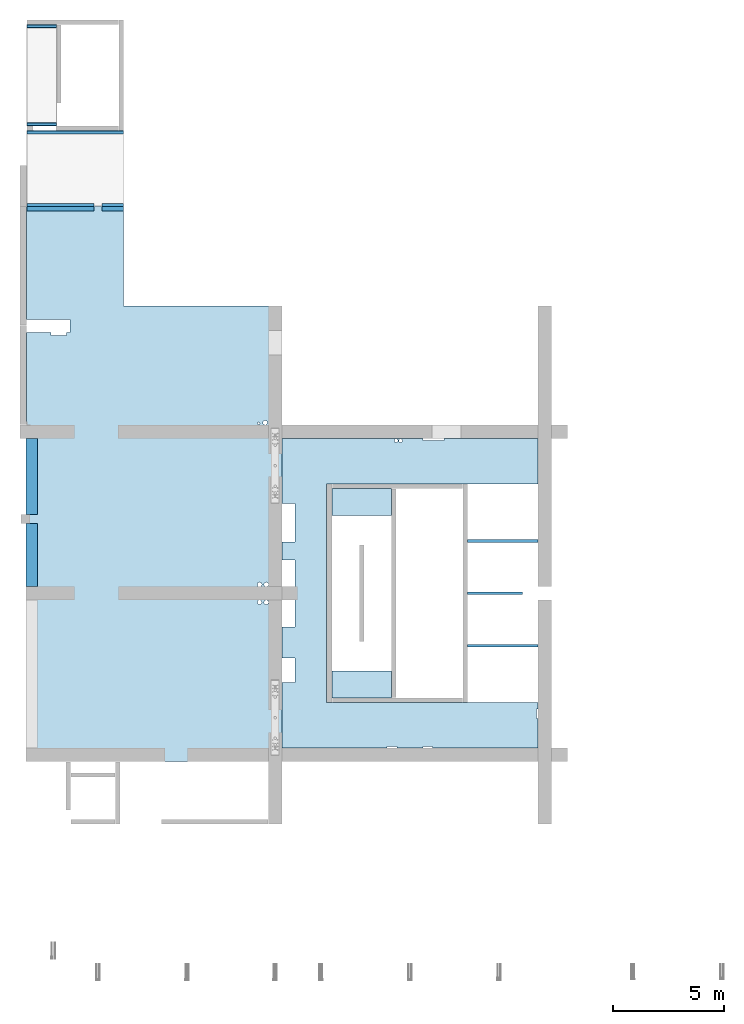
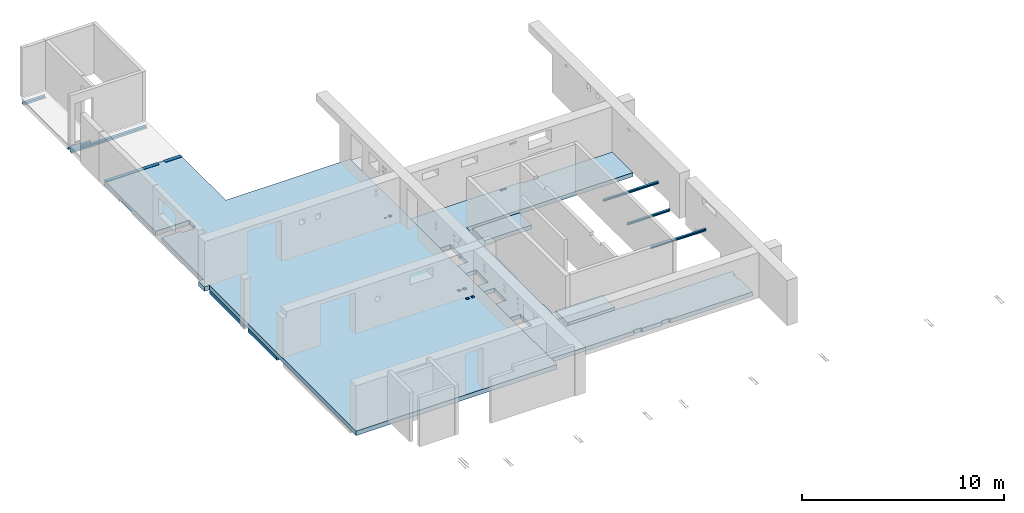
# One storey, part 3 of 8: 9 beams, 4 slabs, 42 openings.
"""IFC2X3 building model written with IfcOpenShell, lengths in millimetres."""

from ifc_helpers import new_model, entity, si_unit, converted_unit, derived_unit, direction, frame, frame_2d, origin, origin_2d_with_axis, place, context, subcontext, project, spatial, polyline, circle_curve, parameter, trimmed, segment, composite_curve, rectangle, circle, i_section, outline, extrude, source, transform, mapped, material, layer, layer_set, layer_usage, type_object, type_shapes, element, save


model = new_model("IFC2X3")

# Units and contexts
model_context = context("Model", 3, precision=0.01, world=origin(), true_north=direction((6.12303176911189e-17, 1.0)))
body_context = subcontext(model_context, "Body", "Model", "MODEL_VIEW")
ifc_project = project(units=[si_unit("LENGTHUNIT", "METRE", prefix="MILLI"), si_unit("AREAUNIT", "SQUARE_METRE"), si_unit("VOLUMEUNIT", "CUBIC_METRE"), converted_unit("PLANEANGLEUNIT", "DEGREE", entity("IfcRatioMeasure", 0.0174532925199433), si_unit("PLANEANGLEUNIT", "RADIAN"), dimensions=[0, 0, 0, 0, 0, 0, 0]), si_unit("MASSUNIT", "GRAM", prefix="KILO"), derived_unit("MASSDENSITYUNIT", [(si_unit("MASSUNIT", "GRAM", prefix="KILO"), 1), (si_unit("LENGTHUNIT", "METRE"), -3)]), si_unit("TIMEUNIT", "SECOND"), si_unit("FREQUENCYUNIT", "HERTZ"), si_unit("THERMODYNAMICTEMPERATUREUNIT", "DEGREE_CELSIUS"), derived_unit("THERMALTRANSMITTANCEUNIT", [(si_unit("MASSUNIT", "GRAM", prefix="KILO"), 1), (si_unit("THERMODYNAMICTEMPERATUREUNIT", "KELVIN"), -1), (si_unit("TIMEUNIT", "SECOND"), -3)]), derived_unit("VOLUMETRICFLOWRATEUNIT", [(si_unit("LENGTHUNIT", "METRE"), 3), (si_unit("TIMEUNIT", "SECOND"), -1)]), si_unit("ELECTRICCURRENTUNIT", "AMPERE"), si_unit("ELECTRICVOLTAGEUNIT", "VOLT"), si_unit("POWERUNIT", "WATT"), si_unit("FORCEUNIT", "NEWTON", prefix="KILO"), si_unit("ILLUMINANCEUNIT", "LUX"), si_unit("LUMINOUSFLUXUNIT", "LUMEN"), si_unit("LUMINOUSINTENSITYUNIT", "CANDELA"), derived_unit("USERDEFINED", [(si_unit("MASSUNIT", "GRAM", prefix="KILO"), -1), (si_unit("LENGTHUNIT", "METRE"), -2), (si_unit("TIMEUNIT", "SECOND"), 3), (si_unit("LUMINOUSFLUXUNIT", "LUMEN"), 1)]), derived_unit("LINEARVELOCITYUNIT", [(si_unit("LENGTHUNIT", "METRE"), 1), (si_unit("TIMEUNIT", "SECOND"), -1)]), si_unit("PRESSUREUNIT", "PASCAL"), derived_unit("USERDEFINED", [(si_unit("LENGTHUNIT", "METRE"), -2), (si_unit("MASSUNIT", "GRAM", prefix="KILO"), 1), (si_unit("TIMEUNIT", "SECOND"), -2)])], contexts=[model_context])

# Site, building, storey
site_placement = place(None, origin())
site = spatial("IfcSite", under=ifc_project, at=site_placement, Name="Default", CompositionType="ELEMENT")
building_placement = place(site_placement, origin())
building = spatial("IfcBuilding", under=site, at=building_placement, Name="niet gebruiken", CompositionType="ELEMENT")
storey_placement = place(building_placement, frame((0.0, 0.0, 3000.0)))
storey = spatial("IfcBuildingStorey", under=building, at=storey_placement, Name="00a eerste tussenverdieping", CompositionType="ELEMENT", Elevation=3000.00000000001)

# Beams
ifc_material_1 = material(Name="NLRS_f2_beton ihwg")
beam_type_1 = type_object("IfcBeamType", Name="500x500", PredefinedType="BEAM", material=ifc_material_1)
shared_shape = source(origin(), body_context, "Body", "SweptSolid", [
    extrude(rectangle(XDim=3404.00000000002, YDim=500.000000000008, at=frame_2d((2.1600499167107e-12, -8.66862137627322e-12), x_axis=(1.0, 0.0))), frame((124780.0, 22748.0, 2410.0), z_axis=(0.0, 0.0, 1.0), x_axis=(0.0, -1.0, 0.0)), (0.0, 0.0, 1.0), 230.0),
    extrude(rectangle(XDim=2845.99999999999, YDim=499.99999999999, at=frame_2d((-2.1600499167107e-12, -8.66862137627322e-12), x_axis=(1.0, 0.0))), frame((124780.0, 19223.0, 2410.0), z_axis=(0.0, 0.0, 1.0), x_axis=(0.0, -1.0, 0.0)), (0.0, 0.0, 1.0), 230.0),
])
type_shapes(beam_type_1, [shared_shape])
beam_1_placement = place(storey_placement, frame((0.0, 0.0, -3000.0)))
element("IfcBeam", 1, at=beam_1_placement, inside=storey, type_object=beam_type_1, material=ifc_material_1, Name="NLRS_28.11_SF_WPB_betonbalk ihwg recht_gen:500x500", ObjectType="500x500", context=body_context, shape_type="MappedRepresentation", body=[
    mapped(shared_shape, transform((0.0, 0.0, 0.0), scale=1.0)),
])
ifc_material_2 = material(Name="NLRS_h2_staal")
beam_type_2 = type_object("IfcBeamType", Name="NLRS_28.11_SF_WPB_stalen ligger HEA_gen:ligger HEA 120", PredefinedType="BEAM")
beam_2_placement = place(storey_placement, frame((144340.0, 17500.0, 950.0)))
element("IfcBeam", 2, at=beam_2_placement, inside=storey, type_object=beam_type_2, material=ifc_material_2, Name="NLRS_28.11_SF_WPB_stalen ligger HEA_gen:ligger HEA 120", ObjectType="NLRS_28.11_SF_WPB_stalen ligger HEA_gen:ligger HEA 120", context=body_context, shape_type="SweptSolid", body=[
    extrude(i_section(OverallWidth=120.00000000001, OverallDepth=114.000000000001, WebThickness=4.99999999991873, FlangeThickness=8.00000000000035, FilletRadius=11.9999999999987, at=frame_2d((2.70006239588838e-13, -2.16360263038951e-12), x_axis=(0.0, 1.0))), frame((0.0, 0.0, -57.0), z_axis=(1.0, 0.0, 0.0), x_axis=(0.0, 0.0, -1.0)), (0.0, 0.0, 1.0), 2450.0),
])
beam_3_placement = place(storey_placement, frame((144340.0, 19850.0, 950.0)))
element("IfcBeam", 3, at=beam_3_placement, inside=storey, type_object=beam_type_2, material=ifc_material_2, Name="NLRS_28.11_SF_WPB_stalen ligger HEA_gen:ligger HEA 120", ObjectType="NLRS_28.11_SF_WPB_stalen ligger HEA_gen:ligger HEA 120", context=body_context, shape_type="SweptSolid", body=[
    extrude(i_section(OverallWidth=120.000000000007, OverallDepth=114.000000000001, WebThickness=4.99999999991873, FlangeThickness=8.00000000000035, FilletRadius=12.000000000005, at=frame_2d((2.70006239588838e-13, 0.0), x_axis=(0.0, 1.0))), frame((0.0, 0.0, -57.0), z_axis=(1.0, 0.0, 0.0), x_axis=(0.0, 0.0, -1.0)), (0.0, 0.0, 1.0), 3150.0),
])
beam_4_placement = place(storey_placement, frame((144340.0, 15150.0, 950.0)))
element("IfcBeam", 4, at=beam_4_placement, inside=storey, type_object=beam_type_2, material=ifc_material_2, Name="NLRS_28.11_SF_WPB_stalen ligger HEA_gen:ligger HEA 120", ObjectType="NLRS_28.11_SF_WPB_stalen ligger HEA_gen:ligger HEA 120", context=body_context, shape_type="SweptSolid", body=[
    extrude(i_section(OverallWidth=120.000000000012, OverallDepth=114.000000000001, WebThickness=4.9999999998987, FlangeThickness=8.00000000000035, FilletRadius=11.9999999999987, at=frame_2d((2.70006239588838e-13, 4.33075797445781e-12), x_axis=(0.0, 1.0))), frame((0.0, 0.0, -57.0), z_axis=(1.0, 0.0, 0.0), x_axis=(0.0, 0.0, -1.0)), (0.0, 0.0, 1.0), 3150.00000000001),
])
beam_type_3 = type_object("IfcBeamType", Name="NLRS_28.11_SF_WPB_stalen ligger hoekprofiel gelijkzijdig_gen:ligger gelijzijdig hoekprofiel LEQU_150x150x15", PredefinedType="BEAM")
beam_5_placement = place(storey_placement, frame((128900.0, 38227.5000000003, -360.0), z_axis=(0.0, 0.0, 1.0), x_axis=(-1.0, 0.0, 0.0)))
element("IfcBeam", 5, at=beam_5_placement, inside=storey, type_object=beam_type_3, material=ifc_material_2, Name="NLRS_28.11_SF_WPB_stalen ligger hoekprofiel gelijkzijdig_gen:ligger gelijzijdig hoekprofiel LEQU_150x150x15", ObjectType="NLRS_28.11_SF_WPB_stalen ligger hoekprofiel gelijkzijdig_gen:ligger gelijzijdig hoekprofiel LEQU_150x150x15", context=body_context, shape_type="SweptSolid", body=[
    extrude(outline(composite_curve([segment(polyline([(-93.3333333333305, -56.6666666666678), (56.6666666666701, -56.6666666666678)]), True, "CONTINUOUS"), segment(polyline([(56.6666666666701, -56.6666666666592), (56.6666666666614, 93.3333333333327)]), True, "CONTINUOUS"), segment(polyline([(56.6666666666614, 93.3333333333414), (49.6666666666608, 93.3333333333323)]), True, "CONTINUOUS"), segment(trimmed(circle_curve(frame_2d((49.6666666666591, 85.3333333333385), x_axis=(0.0, 1.0)), 7.99999999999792), [parameter(0.0)], [parameter(90.0000000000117)], True, "PARAMETER"), True, "CONTINUOUS"), segment(polyline([(41.6666666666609, 85.333333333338), (41.6666666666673, -25.6666666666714)]), True, "CONTINUOUS"), segment(trimmed(circle_curve(frame_2d((25.6666666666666, -25.6666666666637), x_axis=(1.0, 0.0)), 16.0000000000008), [parameter(270.000000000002)], [parameter(0.0)], True, "PARAMETER"), False, "CONTINUOUS"), segment(polyline([(25.6666666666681, -41.66666666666), (-85.3333333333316, -41.6666666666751)]), True, "CONTINUOUS"), segment(trimmed(circle_curve(frame_2d((-85.3333333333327, -49.666666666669), x_axis=(0.0, 1.0)), 7.99999999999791), [parameter(0.0)], [parameter(90.0000000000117)], True, "PARAMETER"), True, "CONTINUOUS"), segment(polyline([(-93.3333333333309, -49.6666666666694), (-93.3333333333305, -56.6666666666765)]), True, "CONTINUOUS")], self_intersect=False)), frame((0.0, 14.1666666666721, -18.3333333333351), z_axis=(1.0, 0.0, 0.0), x_axis=(0.0, 0.0, -1.0)), (0.0, 0.0, 1.0), 4330.00000000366),
])
beam_6_placement = place(storey_placement, frame((124570.0, 42987.5, -358.0)))
element("IfcBeam", 6, at=beam_6_placement, inside=storey, type_object=beam_type_3, material=ifc_material_2, Name="NLRS_28.11_SF_WPB_stalen ligger hoekprofiel gelijkzijdig_gen:ligger gelijzijdig hoekprofiel LEQU_150x150x15", ObjectType="NLRS_28.11_SF_WPB_stalen ligger hoekprofiel gelijkzijdig_gen:ligger gelijzijdig hoekprofiel LEQU_150x150x15", context=body_context, shape_type="SweptSolid", body=[
    extrude(outline(composite_curve([segment(polyline([(49.6666666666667, -93.3333333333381), (56.6666666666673, -93.3333333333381)]), True, "CONTINUOUS"), segment(polyline([(56.6666666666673, -93.3333333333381), (56.6666666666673, 56.6666666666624)]), True, "CONTINUOUS"), segment(polyline([(56.6666666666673, 56.6666666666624), (-93.3333333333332, 56.6666666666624)]), True, "CONTINUOUS"), segment(polyline([(-93.3333333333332, 56.6666666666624), (-93.3333333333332, 49.666666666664)]), True, "CONTINUOUS"), segment(trimmed(circle_curve(frame_2d((-85.3333333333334, 49.666666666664), x_axis=(-1.0, 0.0)), 7.99999999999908), [parameter(0.0)], [parameter(90.0000000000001)], True, "PARAMETER"), True, "CONTINUOUS"), segment(polyline([(-85.3333333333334, 41.6666666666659), (25.6666666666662, 41.6666666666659)]), True, "CONTINUOUS"), segment(trimmed(circle_curve(frame_2d((25.66666666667, 25.6666666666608), x_axis=(0.0, 1.0)), 15.9999999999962), [parameter(269.999999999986)], [parameter(0.0)], True, "PARAMETER"), False, "CONTINUOUS"), segment(polyline([(41.6666666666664, 25.6666666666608), (41.6666666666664, -85.3333333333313)]), True, "CONTINUOUS"), segment(trimmed(circle_curve(frame_2d((49.6666666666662, -85.3333333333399), x_axis=(-1.0, 0.0)), 7.99999999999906), [parameter(0.0)], [parameter(90.0000000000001)], True, "PARAMETER"), True, "CONTINUOUS")], self_intersect=False)), frame((0.0, -14.1666666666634, -18.3333333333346), z_axis=(1.0, 0.0, 0.0), x_axis=(0.0, 0.0, -1.0)), (0.0, 0.0, 1.0), 1310.00000000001),
])
beam_7_placement = place(storey_placement, frame((124570.0, 38512.5, -360.0)))
element("IfcBeam", 7, at=beam_7_placement, inside=storey, type_object=beam_type_3, material=ifc_material_2, Name="NLRS_28.11_SF_WPB_stalen ligger hoekprofiel gelijkzijdig_gen:ligger gelijzijdig hoekprofiel LEQU_150x150x15", ObjectType="NLRS_28.11_SF_WPB_stalen ligger hoekprofiel gelijkzijdig_gen:ligger gelijzijdig hoekprofiel LEQU_150x150x15", context=body_context, shape_type="SweptSolid", body=[
    extrude(outline(composite_curve([segment(polyline([(-93.333333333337, -56.6666666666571), (56.6666666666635, -56.6666666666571)]), True, "CONTINUOUS"), segment(polyline([(56.6666666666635, -56.6666666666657), (56.6666666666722, 93.3333333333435)]), True, "CONTINUOUS"), segment(polyline([(56.6666666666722, 93.3333333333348), (49.6666666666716, 93.3333333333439)]), True, "CONTINUOUS"), segment(trimmed(circle_curve(frame_2d((49.666666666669, 85.3333333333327), x_axis=(0.0, 1.0)), 7.99999999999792), [parameter(0.0)], [parameter(90.0000000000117)], True, "PARAMETER"), True, "CONTINUOUS"), segment(polyline([(41.6666666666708, 85.3333333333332), (41.6666666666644, -25.6666666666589)]), True, "CONTINUOUS"), segment(trimmed(circle_curve(frame_2d((25.6666666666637, -25.6666666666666), x_axis=(1.0, 0.0)), 16.0000000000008), [parameter(270.000000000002)], [parameter(0.0)], True, "PARAMETER"), False, "CONTINUOUS"), segment(polyline([(25.6666666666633, -41.666666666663), (-85.3333333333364, -41.6666666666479)]), True, "CONTINUOUS"), segment(trimmed(circle_curve(frame_2d((-85.3333333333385, -49.6666666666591), x_axis=(0.0, 1.0)), 7.99999999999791), [parameter(0.0)], [parameter(90.0000000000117)], True, "PARAMETER"), True, "CONTINUOUS"), segment(polyline([(-93.3333333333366, -49.6666666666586), (-93.333333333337, -56.6666666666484)]), True, "CONTINUOUS")], self_intersect=False)), frame((0.0, 14.1666666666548, -18.3333333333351), z_axis=(1.0, 0.0, 0.0), x_axis=(0.0, 0.0, -1.0)), (0.0, 0.0, 1.0), 1310.00000000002),
])
beam_type_4 = type_object("IfcBeamType", Name="NLRS_28.11_SF_WPB_stalen ligger Z-profiel_gen_BSc:ligger Z-profiel 200/15x355/15x150/15", PredefinedType="BEAM")
beam_8_placement = place(storey_placement, frame((128900.0, 34857.5000000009, -242.500000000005), z_axis=(0.0, 0.0, 1.0), x_axis=(-1.0, 0.0, 0.0)))
element("IfcBeam", 8, at=beam_8_placement, inside=storey, type_object=beam_type_4, material=ifc_material_2, Name="NLRS_28.11_SF_WPB_stalen ligger Z-profiel_gen_BSc:ligger Z-profiel 200/15x355/15x150/15", ObjectType="NLRS_28.11_SF_WPB_stalen ligger Z-profiel_gen_BSc:ligger Z-profiel 200/15x355/15x150/15", context=body_context, shape_type="SweptSolid", body=[
    extrude(outline(polyline([(177.499999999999, -155.0), (192.500000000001, -155.0), (192.500000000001, -5.0), (-177.5, -5.0), (-177.5, 180.0), (-192.5, 180.0), (-192.5, -20.0), (177.5, -20.0), (177.499999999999, -155.0)])), frame((0.0, 12.5000000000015, 0.0), z_axis=(1.0, 0.0, 0.0), x_axis=(0.0, 0.0, -1.0)), (0.0, 0.0, 1.0), 969.999999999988),
])
beam_9_placement = place(storey_placement, frame((127570.0, 34857.5000000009, -242.500000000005), z_axis=(0.0, 0.0, 1.0), x_axis=(-1.0, 0.0, 0.0)))
element("IfcBeam", 9, at=beam_9_placement, inside=storey, type_object=beam_type_4, material=ifc_material_2, Name="NLRS_28.11_SF_WPB_stalen ligger Z-profiel_gen_BSc:ligger Z-profiel 200/15x355/15x150/15", ObjectType="NLRS_28.11_SF_WPB_stalen ligger Z-profiel_gen_BSc:ligger Z-profiel 200/15x355/15x150/15", context=body_context, shape_type="SweptSolid", body=[
    extrude(outline(polyline([(177.500000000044, -155.0), (192.500000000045, -155.0), (192.500000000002, -5.0), (-177.499999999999, -5.0), (-177.500000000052, 180.0), (-192.500000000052, 180.0), (-192.499999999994, -20.0), (177.500000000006, -20.0), (177.500000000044, -155.0)])), frame((0.0, 12.5000000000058, 0.0), z_axis=(1.0, 0.0, 0.0), x_axis=(0.0, 0.0, -1.0)), (0.0, 0.0, 1.0), 3000.00000000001),
])

# Slab, openings
ifc_layer_1 = layer(ifc_material_1, 270.0)
ifc_layer_set_1 = layer_set([ifc_layer_1], Name="Floor:NLRS_23.21_FL_beton ihwg d=270_gen")
ifc_layer_usage_1 = layer_usage(ifc_layer_set_1, "AXIS3", "POSITIVE", 0.0)
slab_1_placement = place(storey_placement, frame((124250.0, 9950.0, -360.0)))
slab_1 = element("IfcSlab", 10, at=slab_1_placement, inside=storey, material=ifc_layer_usage_1, Name="Floor:NLRS_23.21_FL_beton ihwg d=270_gen", ObjectType="Floor:NLRS_23.21_FL_beton ihwg d=270_gen", PredefinedType="FLOOR", context=body_context, shape_type="SweptSolid", body=[
    extrude(outline(polyline([(1225.0, 12450.0), (1225.0, 8000.0), (-5875.0, 8000.0), (-5875.0, -12450.0), (5595.0, -12450.0), (5595.0, 2050.0), (5875.0, 2050.0), (5875.0, 2650.0), (5575.0, 2650.0), (5575.0, 12450.0), (1225.0, 12450.0)])), frame((5875.0, 12450.0, 270.0), z_axis=(0.0, 0.0, -1.0), x_axis=(-1.0, 0.0, 0.0)), (0.0, 0.0, 1.0), 270.0),
])
opening_1_placement = place(slab_1_placement, origin())
element("IfcOpeningElement", 11, at=opening_1_placement, cuts=slab_1, ObjectType="Opening", context=body_context, shape_type="SweptSolid", body=[
    extrude(rectangle(XDim=1939.99999999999, YDim=600.000000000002, at=origin_2d_with_axis()), frame((1270.0, 19550.0, 0.0)), (0.0, 0.0, 1.0), 270.0),
])
opening_2_placement = place(slab_1_placement, origin())
element("IfcOpeningElement", 12, at=opening_2_placement, cuts=slab_1, ObjectType="Opening", context=body_context, shape_type="SweptSolid", body=[
    extrude(rectangle(XDim=709.999999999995, YDim=130.000000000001, at=origin_2d_with_axis()), frame((1735.0, 19185.0, 0.0)), (0.0, 0.0, 1.0), 270.0),
])
opening_3_placement = place(slab_1_placement, origin())
element("IfcOpeningElement", 13, at=opening_3_placement, cuts=slab_1, ObjectType="Opening", context=body_context, shape_type="SweptSolid", body=[
    extrude(circle(Radius=100.0, at=origin_2d_with_axis()), frame((11050.0, 7150.0, 0.0)), (0.0, 0.0, 1.0), 270.0),
])
opening_4_placement = place(slab_1_placement, origin())
element("IfcOpeningElement", 14, at=opening_4_placement, cuts=slab_1, ObjectType="Opening", context=body_context, shape_type="SweptSolid", body=[
    extrude(circle(Radius=100.0, at=origin_2d_with_axis()), frame((11050.0, 7950.0, 0.0)), (0.0, 0.0, 1.0), 270.0),
])
opening_5_placement = place(slab_1_placement, origin())
element("IfcOpeningElement", 15, at=opening_5_placement, cuts=slab_1, ObjectType="Opening", context=body_context, shape_type="SweptSolid", body=[
    extrude(rectangle(XDim=220.0, YDim=1200.0, at=origin_2d_with_axis()), frame((11450.0, 5347.5, 110.0), z_axis=(0.0, 0.0, 1.0), x_axis=(0.0, -1.0, 0.0)), (0.0, 0.0, 1.0), 100.0),
])
opening_6_placement = place(slab_1_placement, origin())
element("IfcOpeningElement", 16, at=opening_6_placement, cuts=slab_1, ObjectType="Opening", context=body_context, shape_type="SweptSolid", body=[
    extrude(circle(Radius=100.0, at=origin_2d_with_axis()), frame((10750.0, 7950.0, 0.0)), (0.0, 0.0, 1.0), 270.0),
])
opening_7_placement = place(slab_1_placement, origin())
element("IfcOpeningElement", 17, at=opening_7_placement, cuts=slab_1, ObjectType="Opening", context=body_context, shape_type="SweptSolid", body=[
    extrude(circle(Radius=100.0, at=origin_2d_with_axis()), frame((10750.0, 7150.0, 0.0)), (0.0, 0.0, 1.0), 270.0),
])
opening_8_placement = place(slab_1_placement, origin())
element("IfcOpeningElement", 18, at=opening_8_placement, cuts=slab_1, ObjectType="Opening", context=body_context, shape_type="SweptSolid", body=[
    extrude(circle(Radius=100.0, at=origin_2d_with_axis()), frame((11000.0, 15210.0, 0.0)), (0.0, 0.0, 1.0), 270.0),
])
opening_9_placement = place(slab_1_placement, origin())
element("IfcOpeningElement", 19, at=opening_9_placement, cuts=slab_1, ObjectType="Opening", context=body_context, shape_type="SweptSolid", body=[
    extrude(circle(Radius=50.0, at=origin_2d_with_axis()), frame((10710.0, 15180.0, 0.0)), (0.0, 0.0, 1.0), 270.0),
])

ifc_layer_2 = layer(ifc_material_1, 240.0)
ifc_layer_set_2 = layer_set([ifc_layer_2], Name="Floor:NLRS_23.21_FL_beton ihwg d=240_gen")
ifc_layer_usage_2 = layer_usage(ifc_layer_set_2, "AXIS3", "POSITIVE", 0.0)
slab_2_placement = place(storey_placement, frame((136000.0, 10550.0, -330.0)))
slab_2 = element("IfcSlab", 20, at=slab_2_placement, inside=storey, material=ifc_layer_usage_2, Name="Floor:NLRS_23.21_FL_beton ihwg d=240_gen", ObjectType="Floor:NLRS_23.21_FL_beton ihwg d=240_gen", PredefinedType="FLOOR", context=body_context, shape_type="SweptSolid", body=[
    extrude(outline(polyline([(-5750.0, 6950.0), (-5750.0, 4900.0), (3750.0, 4900.0), (3750.0, -4900.0), (-5750.0, -4900.0), (-5750.0, -6950.0), (5750.0, -6950.0), (5750.0, 6950.0), (-5750.0, 6950.0)])), frame((5750.0, 6950.0, 240.0), z_axis=(0.0, 0.0, -1.0), x_axis=(-1.0, 0.0, 0.0)), (0.0, 0.0, 1.0), 240.0),
])
placement_1 = place(slab_2_placement, origin())
element("IfcOpeningElement", 21, at=placement_1, cuts=slab_2, ObjectType="Opening", context=body_context, shape_type="SweptSolid", body=[
    extrude(rectangle(XDim=1730.0, YDim=600.000000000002, at=origin_2d_with_axis()), frame((300.0, 10113.0, 0.0), z_axis=(0.0, 0.0, 1.0), x_axis=(0.0, -1.0, 0.0)), (0.0, 0.0, 1.0), 240.0),
])
placement_2 = place(slab_2_placement, origin())
element("IfcOpeningElement", 22, at=placement_2, cuts=slab_2, ObjectType="Opening", context=body_context, shape_type="SweptSolid", body=[
    extrude(rectangle(XDim=1100.0, YDim=600.000000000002, at=origin_2d_with_axis()), frame((300.0, 3500.0, 0.0), z_axis=(0.0, 0.0, 1.0), x_axis=(0.0, -1.0, 0.0)), (0.0, 0.0, 1.0), 240.0),
])
placement_3 = place(slab_2_placement, origin())
element("IfcOpeningElement", 23, at=placement_3, cuts=slab_2, ObjectType="Opening", context=body_context, shape_type="SweptSolid", body=[
    extrude(rectangle(XDim=1205.0, YDim=600.000000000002, at=origin_2d_with_axis()), frame((300.0, 6047.49999999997, 0.0), z_axis=(0.0, 0.0, 1.0), x_axis=(0.0, -1.0, 0.0)), (0.0, 0.0, 1.0), 240.0),
])
placement_4 = place(slab_2_placement, origin())
element("IfcOpeningElement", 24, at=placement_4, cuts=slab_2, ObjectType="Opening", context=body_context, shape_type="SweptSolid", body=[
    extrude(rectangle(XDim=1205.0, YDim=600.000000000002, at=origin_2d_with_axis()), frame((300.0, 7852.49999999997, 0.0), z_axis=(0.0, 0.0, 1.0), x_axis=(0.0, -1.0, 0.0)), (0.0, 0.0, 1.0), 240.0),
])
placement_5 = place(slab_2_placement, origin())
element("IfcOpeningElement", 25, at=placement_5, cuts=slab_2, ObjectType="Opening", context=body_context, shape_type="SweptSolid", body=[
    extrude(rectangle(XDim=939.999999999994, YDim=80.0000000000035, at=origin_2d_with_axis()), frame((6800.0, 13860.0, 0.0)), (0.0, 0.0, 1.0), 240.0),
])
placement_6 = place(slab_2_placement, origin())
element("IfcOpeningElement", 26, at=placement_6, cuts=slab_2, ObjectType="Opening", context=body_context, shape_type="SweptSolid", body=[
    extrude(rectangle(XDim=440.000000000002, YDim=79.9999999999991, at=origin_2d_with_axis()), frame((11460.0, 1545.0, 0.0), z_axis=(0.0, 0.0, 1.0), x_axis=(0.0, 1.0, 0.0)), (0.0, 0.0, 1.0), 240.0),
])
placement_7 = place(slab_2_placement, origin())
element("IfcOpeningElement", 27, at=placement_7, cuts=slab_2, ObjectType="Opening", context=body_context, shape_type="SweptSolid", body=[
    extrude(rectangle(XDim=440.000000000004, YDim=80.0000000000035, at=origin_2d_with_axis()), frame((6550.0, 40.0, 0.0)), (0.0, 0.0, 1.0), 240.0),
])
placement_8 = place(slab_2_placement, origin())
element("IfcOpeningElement", 28, at=placement_8, cuts=slab_2, ObjectType="Opening", context=body_context, shape_type="SweptSolid", body=[
    extrude(rectangle(XDim=440.000000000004, YDim=80.0000000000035, at=origin_2d_with_axis()), frame((4950.0, 40.0, 0.0)), (0.0, 0.0, 1.0), 240.0),
])
placement_9 = place(slab_2_placement, origin())
element("IfcOpeningElement", 29, at=placement_9, cuts=slab_2, ObjectType="Opening", context=body_context, shape_type="SweptSolid", body=[
    extrude(circle(Radius=80.0, at=origin_2d_with_axis()), frame((5330.0, 13800.0, 0.0)), (0.0, 0.0, 1.0), 240.0),
])
placement_10 = place(slab_2_placement, origin())
element("IfcOpeningElement", 30, at=placement_10, cuts=slab_2, ObjectType="Opening", context=body_context, shape_type="SweptSolid", body=[
    extrude(circle(Radius=80.0, at=origin_2d_with_axis()), frame((5130.0, 13800.0, 0.0)), (0.0, 0.0, 1.0), 240.0),
])
placement_11 = place(slab_2_placement, origin())
element("IfcOpeningElement", 31, at=placement_11, cuts=slab_2, ObjectType="Opening", context=body_context, shape_type="SweptSolid", body=[
    extrude(rectangle(XDim=220.0, YDim=1200.0, at=origin_2d_with_axis()), frame((-300.0, 4747.49999999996, 80.0), z_axis=(0.0, 0.0, 1.0), x_axis=(0.0, -1.0, 0.0)), (0.0, 0.0, 1.0), 100.0),
])

slab_3_placement = place(storey_placement, frame((136000.0, 10550.0, -330.0)))
slab_3 = element("IfcSlab", 32, at=slab_3_placement, inside=storey, material=ifc_layer_usage_2, Name="Floor:NLRS_23.21_FL_beton ihwg d=240_gen:2", ObjectType="Floor:NLRS_23.21_FL_beton ihwg d=240_gen", PredefinedType="FLOOR", context=body_context, shape_type="SweptSolid", body=[
    extrude(rectangle(XDim=1215.00000000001, YDim=2679.99999999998, at=frame_2d((2160.0, -4092.49999999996), x_axis=(0.0, -1.0))), frame((5750.0, 6950.0, 240.0), z_axis=(0.0, 0.0, -1.0), x_axis=(-1.0, 0.0, 0.0)), (0.0, 0.0, 1.0), 240.0),
])
element("IfcOpeningElement", 33, at=placement_1, cuts=slab_3, ObjectType="Opening", context=body_context, shape_type="SweptSolid", body=[
    extrude(rectangle(XDim=1730.0, YDim=600.000000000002, at=origin_2d_with_axis()), frame((300.0, 10113.0, 0.0), z_axis=(0.0, 0.0, 1.0), x_axis=(0.0, -1.0, 0.0)), (0.0, 0.0, 1.0), 240.0),
])
element("IfcOpeningElement", 34, at=placement_2, cuts=slab_3, ObjectType="Opening", context=body_context, shape_type="SweptSolid", body=[
    extrude(rectangle(XDim=1100.0, YDim=600.000000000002, at=origin_2d_with_axis()), frame((300.0, 3500.0, 0.0), z_axis=(0.0, 0.0, 1.0), x_axis=(0.0, -1.0, 0.0)), (0.0, 0.0, 1.0), 240.0),
])
element("IfcOpeningElement", 35, at=placement_3, cuts=slab_3, ObjectType="Opening", context=body_context, shape_type="SweptSolid", body=[
    extrude(rectangle(XDim=1205.0, YDim=600.000000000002, at=origin_2d_with_axis()), frame((300.0, 6047.49999999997, 0.0), z_axis=(0.0, 0.0, 1.0), x_axis=(0.0, -1.0, 0.0)), (0.0, 0.0, 1.0), 240.0),
])
element("IfcOpeningElement", 36, at=placement_4, cuts=slab_3, ObjectType="Opening", context=body_context, shape_type="SweptSolid", body=[
    extrude(rectangle(XDim=1205.0, YDim=600.000000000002, at=origin_2d_with_axis()), frame((300.0, 7852.49999999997, 0.0), z_axis=(0.0, 0.0, 1.0), x_axis=(0.0, -1.0, 0.0)), (0.0, 0.0, 1.0), 240.0),
])
element("IfcOpeningElement", 37, at=placement_5, cuts=slab_3, ObjectType="Opening", context=body_context, shape_type="SweptSolid", body=[
    extrude(rectangle(XDim=939.999999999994, YDim=80.0000000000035, at=origin_2d_with_axis()), frame((6800.0, 13860.0, 0.0)), (0.0, 0.0, 1.0), 240.0),
])
element("IfcOpeningElement", 38, at=placement_6, cuts=slab_3, ObjectType="Opening", context=body_context, shape_type="SweptSolid", body=[
    extrude(rectangle(XDim=440.000000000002, YDim=79.9999999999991, at=origin_2d_with_axis()), frame((11460.0, 1545.0, 0.0), z_axis=(0.0, 0.0, 1.0), x_axis=(0.0, 1.0, 0.0)), (0.0, 0.0, 1.0), 240.0),
])
element("IfcOpeningElement", 39, at=placement_7, cuts=slab_3, ObjectType="Opening", context=body_context, shape_type="SweptSolid", body=[
    extrude(rectangle(XDim=440.000000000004, YDim=80.0000000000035, at=origin_2d_with_axis()), frame((6550.0, 40.0, 0.0)), (0.0, 0.0, 1.0), 240.0),
])
element("IfcOpeningElement", 40, at=placement_8, cuts=slab_3, ObjectType="Opening", context=body_context, shape_type="SweptSolid", body=[
    extrude(rectangle(XDim=440.000000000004, YDim=80.0000000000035, at=origin_2d_with_axis()), frame((4950.0, 40.0, 0.0)), (0.0, 0.0, 1.0), 240.0),
])
element("IfcOpeningElement", 41, at=placement_9, cuts=slab_3, ObjectType="Opening", context=body_context, shape_type="SweptSolid", body=[
    extrude(circle(Radius=80.0, at=origin_2d_with_axis()), frame((5330.0, 13800.0, 0.0)), (0.0, 0.0, 1.0), 240.0),
])
element("IfcOpeningElement", 42, at=placement_10, cuts=slab_3, ObjectType="Opening", context=body_context, shape_type="SweptSolid", body=[
    extrude(circle(Radius=80.0, at=origin_2d_with_axis()), frame((5130.0, 13800.0, 0.0)), (0.0, 0.0, 1.0), 240.0),
])
element("IfcOpeningElement", 43, at=placement_11, cuts=slab_3, ObjectType="Opening", context=body_context, shape_type="SweptSolid", body=[
    extrude(rectangle(XDim=220.0, YDim=1200.0, at=origin_2d_with_axis()), frame((-300.0, 4747.49999999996, 80.0), z_axis=(0.0, 0.0, 1.0), x_axis=(0.0, -1.0, 0.0)), (0.0, 0.0, 1.0), 100.0),
])

slab_4_placement = place(storey_placement, frame((136000.0, 10550.0, -330.0)))
slab_4 = element("IfcSlab", 44, at=slab_4_placement, inside=storey, material=ifc_layer_usage_2, Name="Floor:NLRS_23.21_FL_beton ihwg d=240_gen:3", ObjectType="Floor:NLRS_23.21_FL_beton ihwg d=240_gen", PredefinedType="FLOOR", context=body_context, shape_type="SweptSolid", body=[
    extrude(rectangle(XDim=1215.0, YDim=2679.99999999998, at=frame_2d((2160.0, 4092.50000000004), x_axis=(0.0, -1.0))), frame((5750.0, 6950.0, 240.0), z_axis=(0.0, 0.0, -1.0), x_axis=(-1.0, 0.0, 0.0)), (0.0, 0.0, 1.0), 240.0),
])
element("IfcOpeningElement", 45, at=placement_1, cuts=slab_4, ObjectType="Opening", context=body_context, shape_type="SweptSolid", body=[
    extrude(rectangle(XDim=1730.0, YDim=600.000000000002, at=origin_2d_with_axis()), frame((300.0, 10113.0, 0.0), z_axis=(0.0, 0.0, 1.0), x_axis=(0.0, -1.0, 0.0)), (0.0, 0.0, 1.0), 240.0),
])
element("IfcOpeningElement", 46, at=placement_2, cuts=slab_4, ObjectType="Opening", context=body_context, shape_type="SweptSolid", body=[
    extrude(rectangle(XDim=1100.0, YDim=600.000000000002, at=origin_2d_with_axis()), frame((300.0, 3500.0, 0.0), z_axis=(0.0, 0.0, 1.0), x_axis=(0.0, -1.0, 0.0)), (0.0, 0.0, 1.0), 240.0),
])
element("IfcOpeningElement", 47, at=placement_3, cuts=slab_4, ObjectType="Opening", context=body_context, shape_type="SweptSolid", body=[
    extrude(rectangle(XDim=1205.0, YDim=600.000000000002, at=origin_2d_with_axis()), frame((300.0, 6047.49999999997, 0.0), z_axis=(0.0, 0.0, 1.0), x_axis=(0.0, -1.0, 0.0)), (0.0, 0.0, 1.0), 240.0),
])
element("IfcOpeningElement", 48, at=placement_4, cuts=slab_4, ObjectType="Opening", context=body_context, shape_type="SweptSolid", body=[
    extrude(rectangle(XDim=1205.0, YDim=600.000000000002, at=origin_2d_with_axis()), frame((300.0, 7852.49999999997, 0.0), z_axis=(0.0, 0.0, 1.0), x_axis=(0.0, -1.0, 0.0)), (0.0, 0.0, 1.0), 240.0),
])
element("IfcOpeningElement", 49, at=placement_5, cuts=slab_4, ObjectType="Opening", context=body_context, shape_type="SweptSolid", body=[
    extrude(rectangle(XDim=939.999999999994, YDim=80.0000000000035, at=origin_2d_with_axis()), frame((6800.0, 13860.0, 0.0)), (0.0, 0.0, 1.0), 240.0),
])
element("IfcOpeningElement", 50, at=placement_6, cuts=slab_4, ObjectType="Opening", context=body_context, shape_type="SweptSolid", body=[
    extrude(rectangle(XDim=440.000000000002, YDim=79.9999999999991, at=origin_2d_with_axis()), frame((11460.0, 1545.0, 0.0), z_axis=(0.0, 0.0, 1.0), x_axis=(0.0, 1.0, 0.0)), (0.0, 0.0, 1.0), 240.0),
])
element("IfcOpeningElement", 51, at=placement_7, cuts=slab_4, ObjectType="Opening", context=body_context, shape_type="SweptSolid", body=[
    extrude(rectangle(XDim=440.000000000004, YDim=80.0000000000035, at=origin_2d_with_axis()), frame((6550.0, 40.0, 0.0)), (0.0, 0.0, 1.0), 240.0),
])
element("IfcOpeningElement", 52, at=placement_8, cuts=slab_4, ObjectType="Opening", context=body_context, shape_type="SweptSolid", body=[
    extrude(rectangle(XDim=440.000000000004, YDim=80.0000000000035, at=origin_2d_with_axis()), frame((4950.0, 40.0, 0.0)), (0.0, 0.0, 1.0), 240.0),
])
element("IfcOpeningElement", 53, at=placement_9, cuts=slab_4, ObjectType="Opening", context=body_context, shape_type="SweptSolid", body=[
    extrude(circle(Radius=80.0, at=origin_2d_with_axis()), frame((5330.0, 13800.0, 0.0)), (0.0, 0.0, 1.0), 240.0),
])
element("IfcOpeningElement", 54, at=placement_10, cuts=slab_4, ObjectType="Opening", context=body_context, shape_type="SweptSolid", body=[
    extrude(circle(Radius=80.0, at=origin_2d_with_axis()), frame((5130.0, 13800.0, 0.0)), (0.0, 0.0, 1.0), 240.0),
])
element("IfcOpeningElement", 55, at=placement_11, cuts=slab_4, ObjectType="Opening", context=body_context, shape_type="SweptSolid", body=[
    extrude(rectangle(XDim=220.0, YDim=1200.0, at=origin_2d_with_axis()), frame((-300.0, 4747.49999999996, 80.0), z_axis=(0.0, 0.0, 1.0), x_axis=(0.0, -1.0, 0.0)), (0.0, 0.0, 1.0), 100.0),
])

save(model, "model.ifc")
